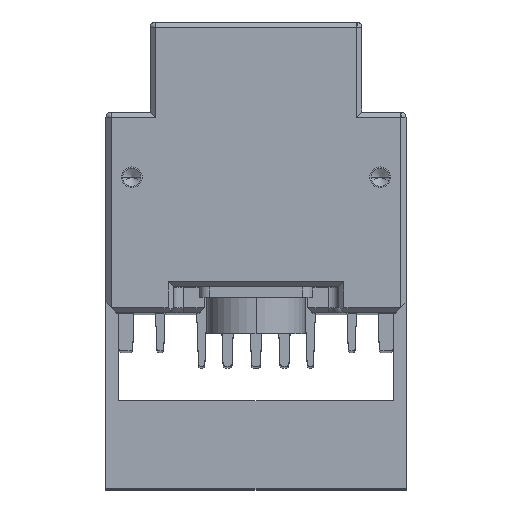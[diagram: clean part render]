
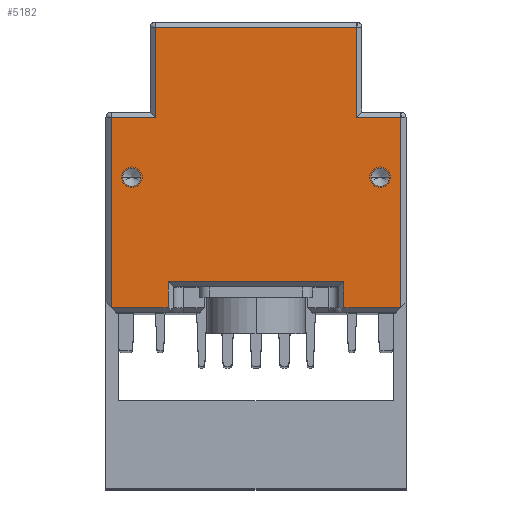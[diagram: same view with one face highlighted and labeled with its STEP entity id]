
A CAD part, top view. The second image highlights one B-rep face of the part: STEP entity #5182.
In plain terms, the highlighted planar face has unit normal (0, 0, 1).
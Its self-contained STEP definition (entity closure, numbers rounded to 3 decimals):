
#757=CARTESIAN_POINT('',(-24.,15.794,135.));
#758=DIRECTION('',(0.,0.,1.));
#759=DIRECTION('',(-1.,0.,0.));
#760=AXIS2_PLACEMENT_3D('',#757,#758,#759);
#762=CARTESIAN_POINT('',(-24.,15.794,135.));
#763=DIRECTION('',(0.,0.,1.));
#764=DIRECTION('',(1.,0.,0.));
#765=AXIS2_PLACEMENT_3D('',#762,#763,#764);
#767=CARTESIAN_POINT('',(24.,15.794,135.));
#768=DIRECTION('',(0.,0.,1.));
#769=DIRECTION('',(-1.,0.,0.));
#770=AXIS2_PLACEMENT_3D('',#767,#768,#769);
#772=CARTESIAN_POINT('',(24.,15.794,135.));
#773=DIRECTION('',(0.,0.,1.));
#774=DIRECTION('',(1.,0.,0.));
#775=AXIS2_PLACEMENT_3D('',#772,#773,#774);
#777=DIRECTION('',(1.,0.,0.));
#778=VECTOR('',#777,11.);
#779=CARTESIAN_POINT('',(-28.,-9.406,135.));
#780=LINE('',#779,#778);
#781=DIRECTION('',(0.,-1.,0.));
#782=VECTOR('',#781,36.8);
#783=CARTESIAN_POINT('',(-28.,27.394,135.));
#784=LINE('',#783,#782);
#785=DIRECTION('',(-1.,0.,0.));
#786=VECTOR('',#785,8.55);
#787=CARTESIAN_POINT('',(-19.45,27.394,135.));
#788=LINE('',#787,#786);
#789=DIRECTION('',(0.,-1.,0.));
#790=VECTOR('',#789,17.4);
#791=CARTESIAN_POINT('',(-19.45,44.794,135.));
#792=LINE('',#791,#790);
#793=DIRECTION('',(-1.,0.,0.));
#794=VECTOR('',#793,38.899);
#795=CARTESIAN_POINT('',(19.45,44.794,135.));
#796=LINE('',#795,#794);
#797=DIRECTION('',(0.,1.,0.));
#798=VECTOR('',#797,17.4);
#799=CARTESIAN_POINT('',(19.45,27.394,135.));
#800=LINE('',#799,#798);
#801=DIRECTION('',(-1.,0.,0.));
#802=VECTOR('',#801,8.55);
#803=CARTESIAN_POINT('',(28.,27.394,135.));
#804=LINE('',#803,#802);
#805=DIRECTION('',(0.,1.,0.));
#806=VECTOR('',#805,36.8);
#807=CARTESIAN_POINT('',(28.,-9.406,135.));
#808=LINE('',#807,#806);
#809=DIRECTION('',(1.,0.,0.));
#810=VECTOR('',#809,11.);
#811=CARTESIAN_POINT('',(17.,-9.406,135.));
#812=LINE('',#811,#810);
#813=DIRECTION('',(0.,-1.,0.));
#814=VECTOR('',#813,5.);
#815=CARTESIAN_POINT('',(17.,-4.406,135.));
#816=LINE('',#815,#814);
#817=DIRECTION('',(-1.,0.,0.));
#818=VECTOR('',#817,34.);
#819=CARTESIAN_POINT('',(17.,-4.406,135.));
#820=LINE('',#819,#818);
#821=DIRECTION('',(0.,1.,0.));
#822=VECTOR('',#821,5.);
#823=CARTESIAN_POINT('',(-17.,-9.406,135.));
#824=LINE('',#823,#822);
#3971=CARTESIAN_POINT('',(-28.,-9.406,135.));
#3972=CARTESIAN_POINT('',(-17.,-9.406,135.));
#3973=VERTEX_POINT('',#3971);
#3974=VERTEX_POINT('',#3972);
#3983=CARTESIAN_POINT('',(-28.,27.394,135.));
#3984=VERTEX_POINT('',#3983);
#3987=CARTESIAN_POINT('',(-19.45,27.394,135.));
#3988=VERTEX_POINT('',#3987);
#3991=CARTESIAN_POINT('',(19.45,27.394,135.));
#3992=CARTESIAN_POINT('',(19.45,44.794,135.));
#3993=VERTEX_POINT('',#3991);
#3994=VERTEX_POINT('',#3992);
#4001=CARTESIAN_POINT('',(-19.45,44.794,135.));
#4002=VERTEX_POINT('',#4001);
#4007=CARTESIAN_POINT('',(28.,-9.406,135.));
#4008=CARTESIAN_POINT('',(28.,27.394,135.));
#4009=VERTEX_POINT('',#4007);
#4010=VERTEX_POINT('',#4008);
#4021=CARTESIAN_POINT('',(17.,-9.406,135.));
#4022=VERTEX_POINT('',#4021);
#4043=CARTESIAN_POINT('',(17.,-4.406,135.));
#4044=VERTEX_POINT('',#4043);
#4045=CARTESIAN_POINT('',(-17.,-4.406,135.));
#4046=VERTEX_POINT('',#4045);
#4077=CARTESIAN_POINT('',(-25.75,15.794,135.));
#4078=CARTESIAN_POINT('',(-22.25,15.794,135.));
#4079=VERTEX_POINT('',#4077);
#4080=VERTEX_POINT('',#4078);
#4087=CARTESIAN_POINT('',(22.25,15.794,135.));
#4088=CARTESIAN_POINT('',(25.75,15.794,135.));
#4089=VERTEX_POINT('',#4087);
#4090=VERTEX_POINT('',#4088);
#5140=CARTESIAN_POINT('',(0.,0.,135.));
#5141=DIRECTION('',(0.,0.,1.));
#5142=DIRECTION('',(1.,0.,0.));
#5143=AXIS2_PLACEMENT_3D('',#5140,#5141,#5142);
#5144=PLANE('',#5143);
#5146=ORIENTED_EDGE('',*,*,#5145,.F.);
#5148=ORIENTED_EDGE('',*,*,#5147,.F.);
#5150=ORIENTED_EDGE('',*,*,#5149,.F.);
#5152=ORIENTED_EDGE('',*,*,#5151,.F.);
#5154=ORIENTED_EDGE('',*,*,#5153,.F.);
#5156=ORIENTED_EDGE('',*,*,#5155,.F.);
#5158=ORIENTED_EDGE('',*,*,#5157,.F.);
#5160=ORIENTED_EDGE('',*,*,#5159,.F.);
#5162=ORIENTED_EDGE('',*,*,#5161,.F.);
#5164=ORIENTED_EDGE('',*,*,#5163,.F.);
#5166=ORIENTED_EDGE('',*,*,#5165,.T.);
#5167=ORIENTED_EDGE('',*,*,#5129,.F.);
#5168=EDGE_LOOP('',(#5146,#5148,#5150,#5152,#5154,#5156,#5158,#5160,#5162,#5164,
#5166,#5167));
#5169=FACE_OUTER_BOUND('',#5168,.F.);
#5171=ORIENTED_EDGE('',*,*,#5170,.T.);
#5173=ORIENTED_EDGE('',*,*,#5172,.T.);
#5174=EDGE_LOOP('',(#5171,#5173));
#5175=FACE_BOUND('',#5174,.F.);
#5177=ORIENTED_EDGE('',*,*,#5176,.T.);
#5179=ORIENTED_EDGE('',*,*,#5178,.T.);
#5180=EDGE_LOOP('',(#5177,#5179));
#5181=FACE_BOUND('',#5180,.F.);
#761=CIRCLE('',#760,1.75);
#766=CIRCLE('',#765,1.75);
#771=CIRCLE('',#770,1.75);
#776=CIRCLE('',#775,1.75);
#5129=EDGE_CURVE('',#3974,#4046,#824,.T.);
#5145=EDGE_CURVE('',#3973,#3974,#780,.T.);
#5147=EDGE_CURVE('',#3984,#3973,#784,.T.);
#5149=EDGE_CURVE('',#3988,#3984,#788,.T.);
#5151=EDGE_CURVE('',#4002,#3988,#792,.T.);
#5153=EDGE_CURVE('',#3994,#4002,#796,.T.);
#5155=EDGE_CURVE('',#3993,#3994,#800,.T.);
#5157=EDGE_CURVE('',#4010,#3993,#804,.T.);
#5159=EDGE_CURVE('',#4009,#4010,#808,.T.);
#5161=EDGE_CURVE('',#4022,#4009,#812,.T.);
#5163=EDGE_CURVE('',#4044,#4022,#816,.T.);
#5165=EDGE_CURVE('',#4044,#4046,#820,.T.);
#5170=EDGE_CURVE('',#4089,#4090,#771,.T.);
#5172=EDGE_CURVE('',#4090,#4089,#776,.T.);
#5176=EDGE_CURVE('',#4079,#4080,#761,.T.);
#5178=EDGE_CURVE('',#4080,#4079,#766,.T.);
#5182=ADVANCED_FACE('',(#5169,#5175,#5181),#5144,.T.);
